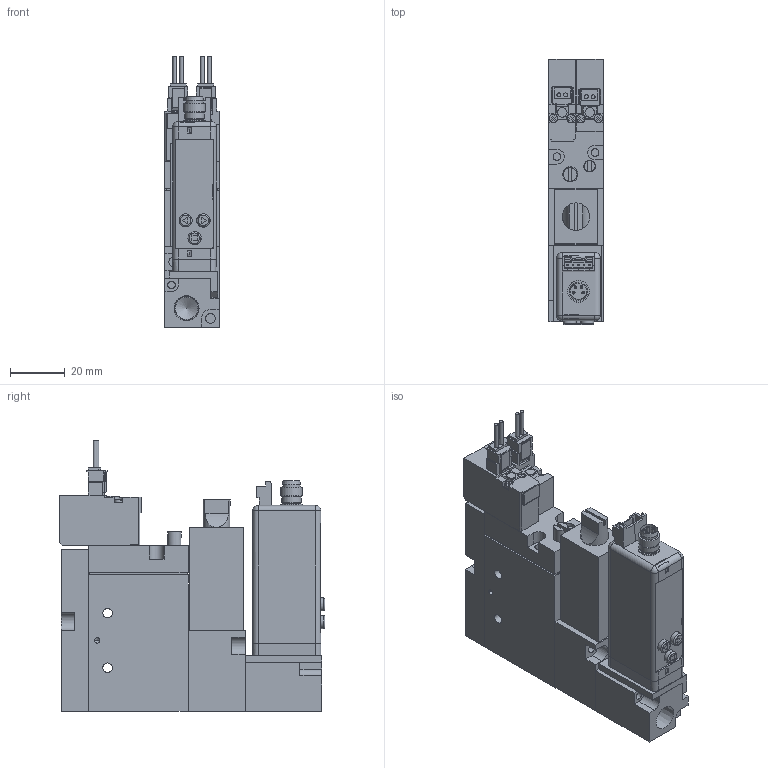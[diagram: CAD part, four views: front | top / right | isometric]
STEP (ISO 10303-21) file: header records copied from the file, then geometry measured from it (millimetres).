
FILE_DESCRIPTION(('STEP AP203'),'1');
FILE_NAME('BMPV32S2N20225AL.stp','2025-06-17T01:49:56',(' '),(' '),'Spatial InterOp 3D',' ',' ');
FILE_SCHEMA(('CONFIG_CONTROL_DESIGN'));
Length unit declared in the file: millimetre
Products named in the file (14): BMPV32S2N20225AL; MVS-202; __ ___ (Rc); ___-3(Rc); Filter Assy; __; _____; ___ ___; ___; upper plate-A; ______; ____; VACUUM VALVE FUNCTION MPV42-A; UV280-4E
Assembly tree (13 placements, depth 2):
  BMPV32S2N20225AL
    MVS-202
    __ ___ (Rc)
    ___-3(Rc)
    Filter Assy
    __
    _____
    ___ ___
    ___
    upper plate-A
    ______
    ____
    VACUUM VALVE FUNCTION MPV42-A
    UV280-4E
Bounding box: 20 x 97.3 x 99.25 mm (x, y, z)
Volume: 118972 mm3; surface area: 43117.4 mm2
Topology: 13 solids, 17 shells, 792 faces, 2032 edges, 1331 vertices
Faces by surface type: plane 650, cylinder 117, cone 18, sphere 4, torus 3
Full cylindrical faces by diameter (mm): 1 x4, 1.4 x4, 1.5 x1, 1.8 x2, 2 x2, 2.5 x2, 2.8 x4, 3 x4, 3.5 x10, 4 x1, 4.2 x1, 4.5 x4, 4.8 x3, 5 x3, 5.5 x1, 5.8 x2, 6 x1, 6.5 x4, 7 x1, 7.2 x1, 7.9 x1, 8 x2, 8.2 x1, 8.759 x1
Entity records: 24004 total; most frequent: CARTESIAN_POINT 4185, ORIENTED_EDGE 3848, DIRECTION 3816, EDGE_CURVE 1924, LINE 1612, VECTOR 1612, VERTEX_POINT 1315, AXIS2_PLACEMENT_3D 1102
